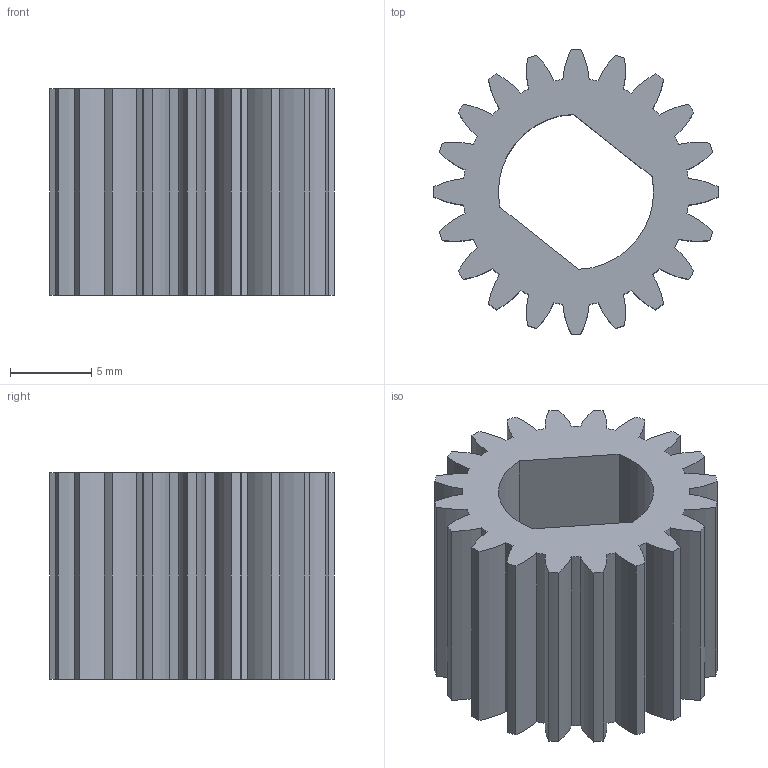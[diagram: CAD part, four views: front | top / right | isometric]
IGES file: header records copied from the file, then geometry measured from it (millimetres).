
Global section: file name: C:\Documents and Settings\Administrator\Desktop\Transfer Temp\globepinion.igs; native system: AutoDesk Inventor R2.0 ; preprocessor: AutoDesk Inventor Iges Exporter R2.0; author: No Author specified; organization: No Organization specified; date: 20011229.170248; units: inch
Bounding box: 17.46 x 17.46 x 12.7 mm (x, y, z)
Surface area: 1898.3 mm2 (no closed solid volume)
Topology: 0 solids, 0 shells, 86 faces, 504 edges, 504 vertices
Faces by surface type: revolution 82, bspline 4
